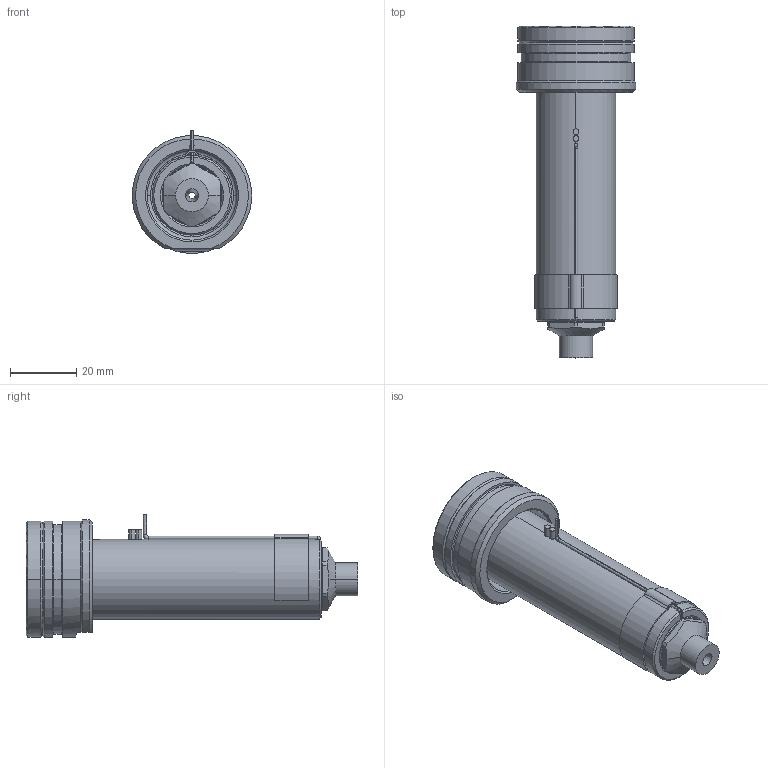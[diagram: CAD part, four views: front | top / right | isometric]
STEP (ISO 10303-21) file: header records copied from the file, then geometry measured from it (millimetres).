
FILE_DESCRIPTION((''),'2;1');
FILE_NAME('EO06_SG_SG_080_SW','2024-02-19T12:15:37',('sundharh'),(''),'CREO PARAMETRIC BY PTC INC, 2023154','CREO PARAMETRIC BY PTC INC, 2023154','');
FILE_SCHEMA(('CONFIG_CONTROL_DESIGN'));
Length unit declared in the file: millimetre
Products named in the file (1): EO06_SG_SG_080_SW
Bounding box: 35.93 x 100 x 37 mm (x, y, z)
Volume: 47392.9 mm3; surface area: 14475.8 mm2
Topology: 2 solids, 2 shells, 169 faces, 429 edges, 260 vertices
Faces by surface type: cylinder 68, plane 41, cone 30, torus 21, bspline 6, sphere 3
Entity records: 5742 total; most frequent: CARTESIAN_POINT 1615, DIRECTION 908, ORIENTED_EDGE 842, EDGE_CURVE 421, AXIS2_PLACEMENT_3D 379, VERTEX_POINT 260, CIRCLE 216, EDGE_LOOP 183
